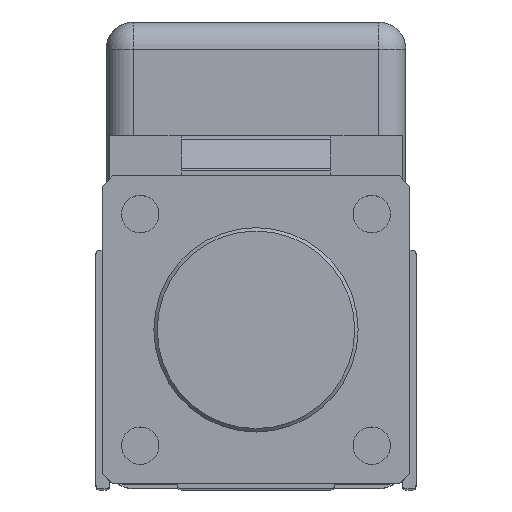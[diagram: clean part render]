
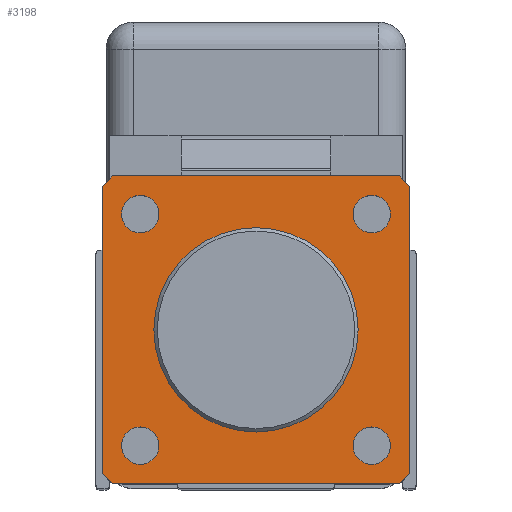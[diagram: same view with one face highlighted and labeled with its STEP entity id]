
A CAD part, top view. The second image highlights one B-rep face of the part: STEP entity #3198.
In plain terms, the highlighted planar face has unit normal (0, 0, 1).
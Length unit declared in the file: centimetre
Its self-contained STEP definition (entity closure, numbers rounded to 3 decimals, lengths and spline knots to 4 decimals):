
#458=VECTOR('',#4054,1.);
#461=VECTOR('',#4058,1.);
#463=VECTOR('',#4061,1.);
#466=VECTOR('',#4065,1.);
#469=VECTOR('',#4069,1.);
#472=VECTOR('',#4073,1.);
#476=VECTOR('',#4078,1.);
#479=VECTOR('',#4082,1.);
#701=LINE('',#5011,#458);
#704=LINE('',#5017,#461);
#706=LINE('',#5021,#463);
#709=LINE('',#5027,#466);
#712=LINE('',#5032,#469);
#715=LINE('',#5039,#472);
#719=LINE('',#5047,#476);
#722=LINE('',#5052,#479);
#904=CIRCLE('',#3446,1.5);
#917=CIRCLE('',#3470,0.275);
#919=CIRCLE('',#3473,0.275);
#920=CIRCLE('',#3475,0.275);
#921=CIRCLE('',#3477,0.275);
#1187=VERTEX_POINT('',#4953);
#1214=VERTEX_POINT('',#5012);
#1215=VERTEX_POINT('',#5013);
#1216=VERTEX_POINT('',#5018);
#1217=VERTEX_POINT('',#5022);
#1219=VERTEX_POINT('',#5028);
#1220=VERTEX_POINT('',#5033);
#1223=VERTEX_POINT('',#5040);
#1226=VERTEX_POINT('',#5048);
#1227=VERTEX_POINT('',#5055);
#1229=VERTEX_POINT('',#5060);
#1230=VERTEX_POINT('',#5063);
#1231=VERTEX_POINT('',#5066);
#1535=EDGE_CURVE('',#1187,#1187,#904,.T.);
#1564=EDGE_CURVE('',#1214,#1215,#701,.T.);
#1567=EDGE_CURVE('',#1215,#1216,#704,.T.);
#1569=EDGE_CURVE('',#1216,#1217,#706,.T.);
#1572=EDGE_CURVE('',#1217,#1219,#709,.T.);
#1575=EDGE_CURVE('',#1219,#1220,#712,.T.);
#1579=EDGE_CURVE('',#1220,#1223,#715,.T.);
#1583=EDGE_CURVE('',#1223,#1226,#719,.T.);
#1586=EDGE_CURVE('',#1226,#1214,#722,.T.);
#1587=EDGE_CURVE('',#1227,#1227,#917,.T.);
#1589=EDGE_CURVE('',#1229,#1229,#919,.T.);
#1590=EDGE_CURVE('',#1230,#1230,#920,.T.);
#1591=EDGE_CURVE('',#1231,#1231,#921,.T.);
#2215=ORIENTED_EDGE('',*,*,#1535,.T.);
#2216=ORIENTED_EDGE('',*,*,#1591,.F.);
#2217=ORIENTED_EDGE('',*,*,#1590,.F.);
#2218=ORIENTED_EDGE('',*,*,#1589,.F.);
#2219=ORIENTED_EDGE('',*,*,#1587,.F.);
#2220=ORIENTED_EDGE('',*,*,#1564,.F.);
#2221=ORIENTED_EDGE('',*,*,#1586,.F.);
#2222=ORIENTED_EDGE('',*,*,#1583,.F.);
#2223=ORIENTED_EDGE('',*,*,#1579,.F.);
#2224=ORIENTED_EDGE('',*,*,#1575,.F.);
#2225=ORIENTED_EDGE('',*,*,#1572,.F.);
#2226=ORIENTED_EDGE('',*,*,#1569,.F.);
#2227=ORIENTED_EDGE('',*,*,#1567,.F.);
#2741=EDGE_LOOP('',(#2215));
#2742=EDGE_LOOP('',(#2216));
#2743=EDGE_LOOP('',(#2217));
#2744=EDGE_LOOP('',(#2218));
#2745=EDGE_LOOP('',(#2219));
#2746=EDGE_LOOP('',(#2220,#2221,#2222,#2223,#2224,#2225,#2226,#2227));
#3000=FACE_BOUND('',#2741,.T.);
#3001=FACE_BOUND('',#2742,.T.);
#3002=FACE_BOUND('',#2743,.T.);
#3003=FACE_BOUND('',#2744,.T.);
#3004=FACE_BOUND('',#2745,.T.);
#3005=FACE_BOUND('',#2746,.T.);
#3198=ADVANCED_FACE('',(#3000,#3001,#3002,#3003,#3004,#3005),#5395,.T.);
#3446=AXIS2_PLACEMENT_3D('',#4952,#4009,#4010);
#3470=AXIS2_PLACEMENT_3D('',#5054,#4085,#4086);
#3473=AXIS2_PLACEMENT_3D('',#5059,#4091,#4092);
#3475=AXIS2_PLACEMENT_3D('',#5062,#4095,#4096);
#3477=AXIS2_PLACEMENT_3D('',#5065,#4099,#4100);
#3478=AXIS2_PLACEMENT_3D('',#5067,#4101,$);
#4009=DIRECTION('',(0.,0.,-1.));
#4010=DIRECTION('',(1.5,0.,0.));
#4054=DIRECTION('',(1.,0.,0.));
#4058=DIRECTION('',(0.707,-0.707,0.));
#4061=DIRECTION('',(0.,-1.,0.));
#4065=DIRECTION('',(-0.707,-0.707,0.));
#4069=DIRECTION('',(-1.,0.,0.));
#4073=DIRECTION('',(-0.707,0.707,0.));
#4078=DIRECTION('',(0.,1.,0.));
#4082=DIRECTION('',(0.707,0.707,0.));
#4085=DIRECTION('',(0.,0.,1.));
#4086=DIRECTION('',(0.275,0.,0.));
#4091=DIRECTION('',(0.,0.,1.));
#4092=DIRECTION('',(0.275,0.,0.));
#4095=DIRECTION('',(0.,0.,1.));
#4096=DIRECTION('',(0.275,0.,0.));
#4099=DIRECTION('',(0.,0.,1.));
#4100=DIRECTION('',(0.275,0.,0.));
#4101=DIRECTION('',(0.,0.,1.));
#4952=CARTESIAN_POINT('',(0.,0.,13.));
#4953=CARTESIAN_POINT('',(1.5,0.,13.));
#5011=CARTESIAN_POINT('',(2.11,2.26,13.));
#5012=CARTESIAN_POINT('',(-2.11,2.26,13.));
#5013=CARTESIAN_POINT('',(2.11,2.26,13.));
#5017=CARTESIAN_POINT('',(2.26,2.11,13.));
#5018=CARTESIAN_POINT('',(2.26,2.11,13.));
#5021=CARTESIAN_POINT('',(2.26,-2.11,13.));
#5022=CARTESIAN_POINT('',(2.26,-2.11,13.));
#5027=CARTESIAN_POINT('',(2.11,-2.26,13.));
#5028=CARTESIAN_POINT('',(2.11,-2.26,13.));
#5032=CARTESIAN_POINT('',(-2.11,-2.26,13.));
#5033=CARTESIAN_POINT('',(-2.11,-2.26,13.));
#5039=CARTESIAN_POINT('',(-2.26,-2.11,13.));
#5040=CARTESIAN_POINT('',(-2.26,-2.11,13.));
#5047=CARTESIAN_POINT('',(-2.26,2.11,13.));
#5048=CARTESIAN_POINT('',(-2.26,2.11,13.));
#5052=CARTESIAN_POINT('',(-2.11,2.26,13.));
#5054=CARTESIAN_POINT('',(-1.7,-1.7,13.));
#5055=CARTESIAN_POINT('',(-1.425,-1.7,13.));
#5059=CARTESIAN_POINT('',(-1.7,1.7,13.));
#5060=CARTESIAN_POINT('',(-1.425,1.7,13.));
#5062=CARTESIAN_POINT('',(1.7,1.7,13.));
#5063=CARTESIAN_POINT('',(1.975,1.7,13.));
#5065=CARTESIAN_POINT('',(1.7,-1.7,13.));
#5066=CARTESIAN_POINT('',(1.975,-1.7,13.));
#5067=CARTESIAN_POINT('',(0.,0.,13.));
#5395=PLANE('',#3478);
